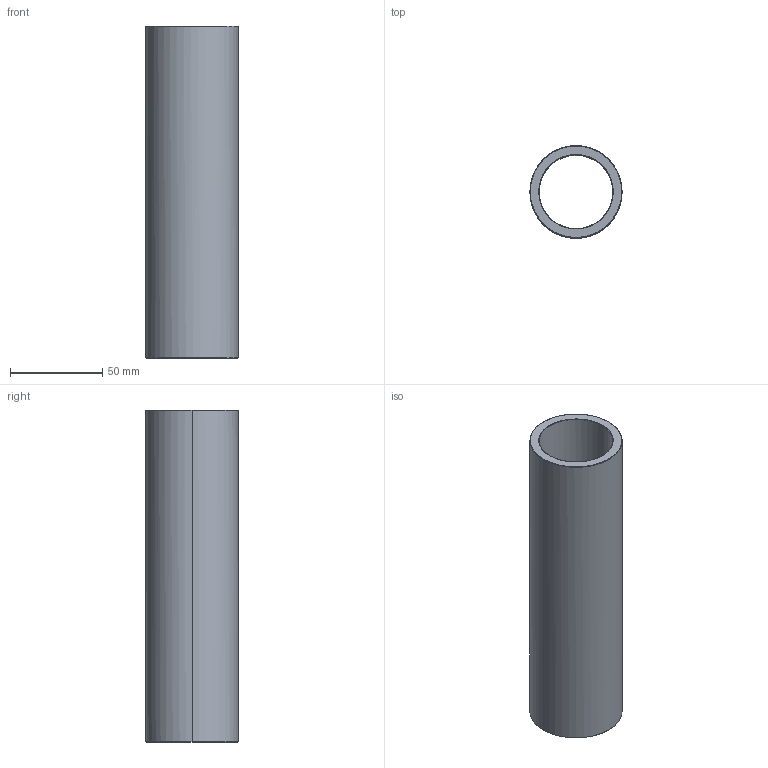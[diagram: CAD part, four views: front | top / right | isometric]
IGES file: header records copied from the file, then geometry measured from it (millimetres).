
Start section: Write IGES format                                    datakit 2008 (c)
Global section: file name: Unknown; native system: DATAKIT Converter; preprocessor: Unknown; author: Unknown; organization: Unknown; date: 950613.180003; units: millimetre
Bounding box: 50 x 49.99 x 180 mm (x, y, z)
Surface area: 52241.3 mm2 (no closed solid volume)
Topology: 0 solids, 0 shells, 14 faces, 56 edges, 56 vertices
Faces by surface type: revolution 12, bspline 2
